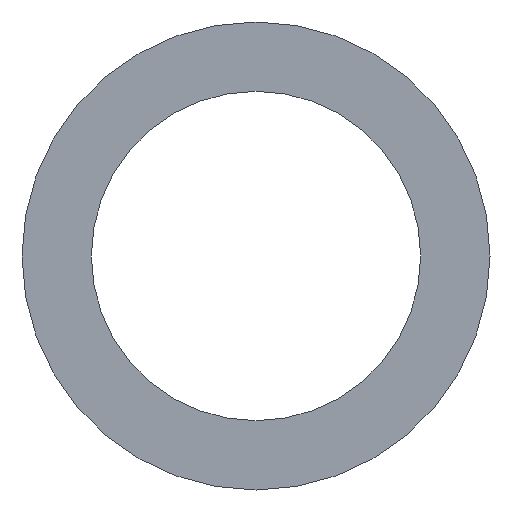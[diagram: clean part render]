
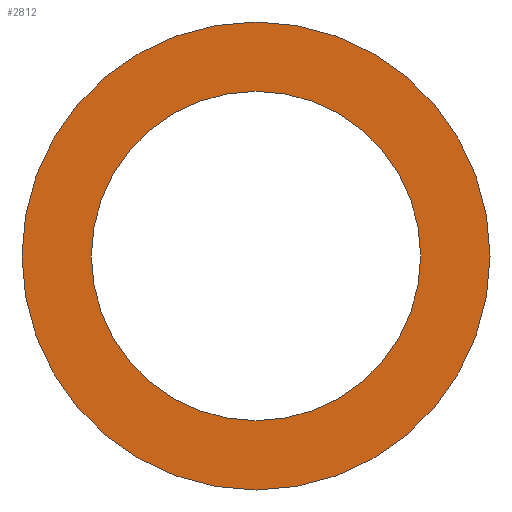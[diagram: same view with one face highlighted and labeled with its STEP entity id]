
A CAD part, front view. The second image highlights one B-rep face of the part: STEP entity #2812.
In plain terms, the highlighted planar face has unit normal (0, -1, 0).
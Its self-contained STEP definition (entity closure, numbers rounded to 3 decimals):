
#10 = FACE_OUTER_BOUND ( 'NONE', #1384, .T. ) ;
#39 = CIRCLE ( 'NONE', #1618, 47.5 ) ;
#107 = ORIENTED_EDGE ( 'NONE', *, *, #2674, .F. ) ;
#175 = EDGE_CURVE ( 'NONE', #4059, #934, #4066, .T. ) ;
#331 = DIRECTION ( 'NONE',  ( 0., -1., 0. ) ) ;
#391 = ORIENTED_EDGE ( 'NONE', *, *, #175, .T. ) ;
#450 = VERTEX_POINT ( 'NONE', #4429 ) ;
#462 = AXIS2_PLACEMENT_3D ( 'NONE', #1027, #3508, #3910 ) ;
#721 = ORIENTED_EDGE ( 'NONE', *, *, #2901, .F. ) ;
#836 = CIRCLE ( 'NONE', #4132, 47.5 ) ;
#881 = CARTESIAN_POINT ( 'NONE',  ( 0., -25., 0. ) ) ;
#934 = VERTEX_POINT ( 'NONE', #1650 ) ;
#977 = DIRECTION ( 'NONE',  ( 0., 0., 1. ) ) ;
#1027 = CARTESIAN_POINT ( 'NONE',  ( 0., -25., 0. ) ) ;
#1090 = DIRECTION ( 'NONE',  ( 0., 0., -1. ) ) ;
#1163 = CARTESIAN_POINT ( 'NONE',  ( 0., -25., -67.5 ) ) ;
#1183 = EDGE_CURVE ( 'NONE', #934, #4059, #2788, .T. ) ;
#1226 = DIRECTION ( 'NONE',  ( 0., 0., -1. ) ) ;
#1384 = EDGE_LOOP ( 'NONE', ( #391, #3950 ) ) ;
#1618 = AXIS2_PLACEMENT_3D ( 'NONE', #881, #3348, #1226 ) ;
#1650 = CARTESIAN_POINT ( 'NONE',  ( 0., -25., 67.5 ) ) ;
#1993 = CARTESIAN_POINT ( 'NONE',  ( 0., -25., 47.5 ) ) ;
#2017 = DIRECTION ( 'NONE',  ( 0., 1., 0. ) ) ;
#2096 = CARTESIAN_POINT ( 'NONE',  ( 0., -25., 0. ) ) ;
#2557 = EDGE_LOOP ( 'NONE', ( #107, #721 ) ) ;
#2674 = EDGE_CURVE ( 'NONE', #4438, #450, #39, .T. ) ;
#2685 = FACE_BOUND ( 'NONE', #2557, .T. ) ;
#2788 = CIRCLE ( 'NONE', #4215, 67.5 ) ;
#2812 = ADVANCED_FACE ( 'NONE', ( #2685, #10 ), #3764, .F. ) ;
#2815 = DIRECTION ( 'NONE',  ( 0., 0., -1. ) ) ;
#2817 = CARTESIAN_POINT ( 'NONE',  ( 0., -25., 0. ) ) ;
#2851 = DIRECTION ( 'NONE',  ( 0., -1., 0. ) ) ;
#2870 = CARTESIAN_POINT ( 'NONE',  ( 0., -25., -47.5 ) ) ;
#2901 = EDGE_CURVE ( 'NONE', #450, #4438, #836, .T. ) ;
#3348 = DIRECTION ( 'NONE',  ( 0., -1., 0. ) ) ;
#3508 = DIRECTION ( 'NONE',  ( 0., -1., 0. ) ) ;
#3764 = PLANE ( 'NONE',  #4363 ) ;
#3910 = DIRECTION ( 'NONE',  ( 0., 0., -1. ) ) ;
#3950 = ORIENTED_EDGE ( 'NONE', *, *, #1183, .T. ) ;
#4059 = VERTEX_POINT ( 'NONE', #1163 ) ;
#4066 = CIRCLE ( 'NONE', #462, 67.5 ) ;
#4132 = AXIS2_PLACEMENT_3D ( 'NONE', #2096, #331, #2815 ) ;
#4215 = AXIS2_PLACEMENT_3D ( 'NONE', #2817, #2851, #1090 ) ;
#4363 = AXIS2_PLACEMENT_3D ( 'NONE', #1993, #2017, #977 ) ;
#4429 = CARTESIAN_POINT ( 'NONE',  ( 0., -25., 47.5 ) ) ;
#4438 = VERTEX_POINT ( 'NONE', #2870 ) ;
